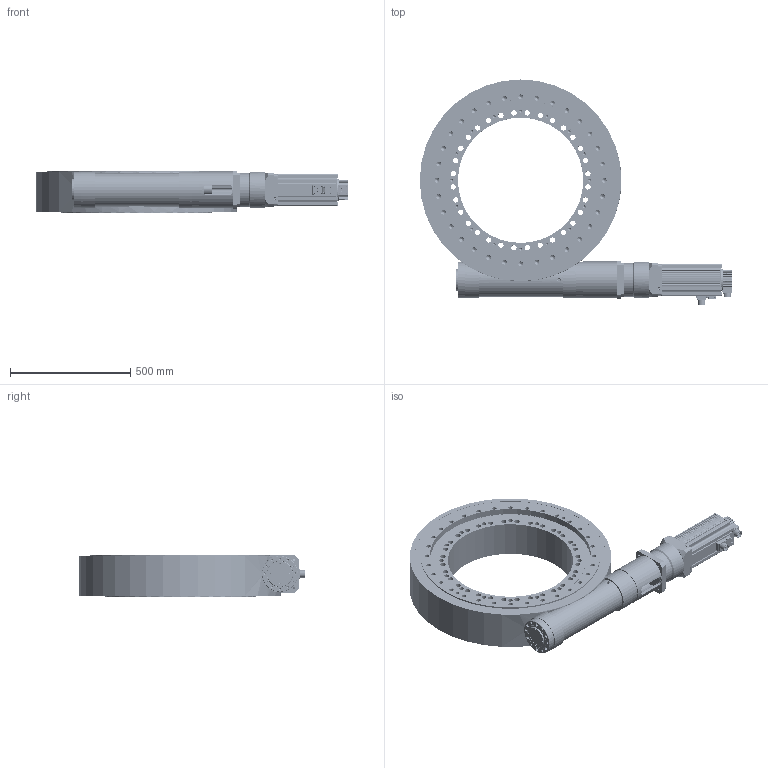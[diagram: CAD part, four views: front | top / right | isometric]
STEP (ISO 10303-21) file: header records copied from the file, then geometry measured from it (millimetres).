
FILE_DESCRIPTION(/* description */ (''),/* implementation_level */ '2;1');
FILE_NAME(/* name */ '1.step',/* time_stamp */ '2026-04-03T15:11:57+08:00',/* author */ (''),/* organization */ (''),/* preprocessor_version */ 'ST-DEVELOPER v16',/* originating_system */ 'SIEMENS PLM Software NX 10.0',/* authorisation */ '');
FILE_SCHEMA (('AUTOMOTIVE_DESIGN { 1 0 10303 214 3 1 1 1 }'));
Products named in the file (1): _model60
Bounding box: 1301.7 x 937.5 x 175 mm (x, y, z)
Volume: 52349406.5 mm3; surface area: 4131731.6 mm2
Topology: 45 solids, 81 shells, 4783 faces, 12052 edges, 7587 vertices
Faces by surface type: cylinder 1861, cone 1357, plane 1121, torus 263, bspline 92, sphere 89
Full cylindrical faces by diameter (mm): 1.8 x23, 2.5 x23, 3 x497, 3.2 x12, 3.5 x8, 4 x4, 4.2 x5, 5 x8, 5.5 x8, 5.6 x13, 6 x12, 6.8 x105, 7 x16, 7.5 x1, 8.5 x58, 8.8 x2, 9 x4, 10 x10, 10.2 x16, 11 x9, 11.115 x1, 12 x1, 13 x16, 14 x21, 16 x66, 17.5 x32, 18.26 x2, 19 x17, 22 x33, 23 x2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
Entity records: 142942 total; most frequent: CARTESIAN_POINT 46437, DIRECTION 20895, ORIENTED_EDGE 15874, AXIS2_PLACEMENT_3D 9273, EDGE_CURVE 7937, EDGE_LOOP 7802, VERTEX_POINT 6235, FACE_BOUND 5951
